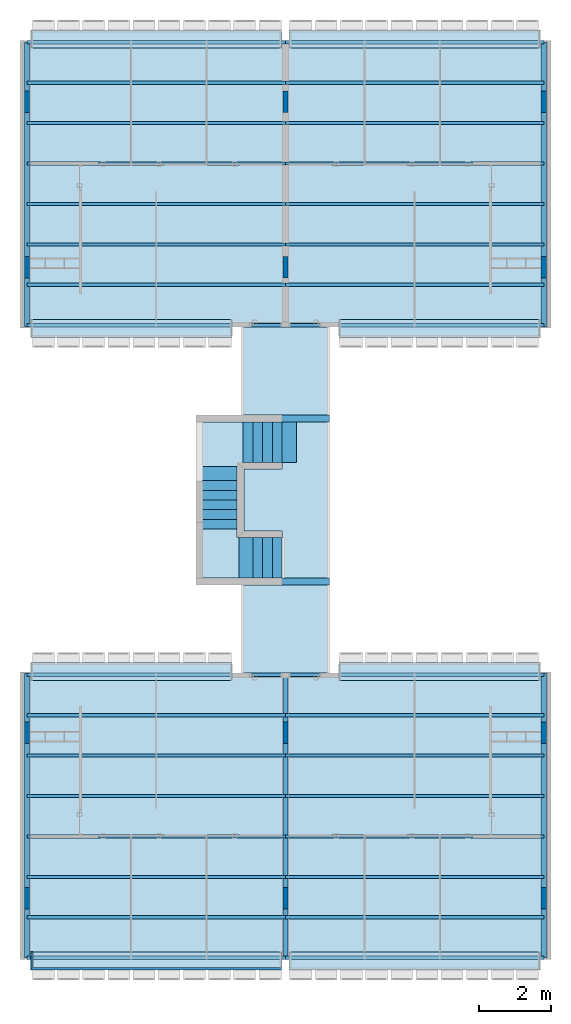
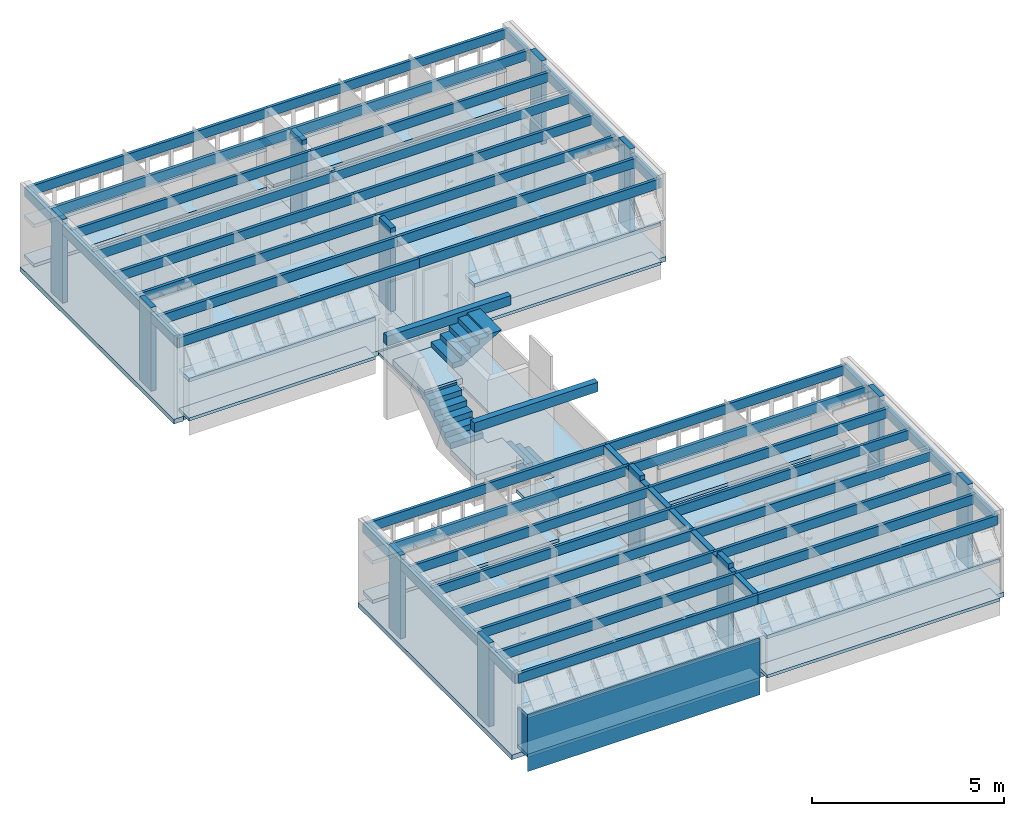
# One storey, part 1 of 22: 39 beams, 23 slabs, 12 columns, 3 members, 2 walls, 3 elements without a shape of their own.
"""IFC2X3 building model written with IfcOpenShell, lengths in millimetres."""

from ifc_helpers import new_model, si_unit, direction, frame, frame_2d, origin_with_axes, origin_2d_with_axis, place, context, subcontext, project, spatial, polyline, rectangle, outline, extrude, boolean, material, layer, layer_set, layer_usage, type_object, element, aggregate, save


model = new_model("IFC2X3")

# Units and contexts
model_context = context("Model", 3, precision=1e-05, world=origin_with_axes(), true_north=direction((0.0, 1.0)))
body_context = subcontext(model_context, "Body", "Model", "MODEL_VIEW")
ifc_project = project(units=[si_unit("LENGTHUNIT", "METRE", prefix="MILLI"), si_unit("AREAUNIT", "SQUARE_METRE"), si_unit("VOLUMEUNIT", "CUBIC_METRE"), si_unit("PLANEANGLEUNIT", "RADIAN"), si_unit("TIMEUNIT", "SECOND"), si_unit("MASSUNIT", "GRAM")], contexts=[model_context])

# Site, building, storey
site_placement = place(None, origin_with_axes())
site = spatial("IfcSite", under=ifc_project, at=site_placement, Name="Site", CompositionType="ELEMENT")
building_placement = place(site_placement, origin_with_axes())
building = spatial("IfcBuilding", under=site, at=building_placement, Name="Construção", CompositionType="COMPLEX")
storey_placement = place(building_placement, frame((0.0, 0.0, 2650.0), z_axis=(0.0, 0.0, 1.0), x_axis=(1.0, 0.0, 0.0)))
storey = spatial("IfcBuildingStorey", under=building, at=storey_placement, Name="Segundo Pavimento", CompositionType="COMPLEX", Elevation=2650.0)

# Columns
ifc_material_1 = material(Name="Concreto Armado Moldado in Loco - Estrutural")
for number, where, z_axis, x_axis, name in (
    (1, (7385.0, 19560.0, 2650.0), (0.0, 0.0, -1.0), (0.0, 1.0, 0.0), "CIRC2-PILAR-004"),
    (2, (195.0, 2000.0, 2650.0), (0.0, 0.0, -1.0), (0.0, -1.0, 0.0), "APTO5-PILAR-000"),
    (3, (195.0, 6600.0, 2650.0), (0.0, 0.0, -1.0), (0.0, -1.0, 0.0), "APTO5-PILAR-001"),
    (4, (7385.0, 6600.0, 2650.0), (0.0, 0.0, -1.0), (0.0, -1.0, 0.0), "CIRC2-PILAR-003"),
    (5, (7385.0, 24160.0, 2650.0), (0.0, 0.0, -1.0), (0.0, 1.0, 0.0), "CIRC2-PILAR-005"),
    (6, (14575.0, 2000.0, 2650.0), (0.0, 0.0, -1.0), (0.0, -1.0, 0.0), "APTO6-PILAR-000"),
    (7, (14575.0, 6600.0, 2650.0), (0.0, 0.0, -1.0), (0.0, -1.0, 0.0), "APTO6-PILAR-001"),
    (8, (195.0, 24160.0, 2650.0), (0.0, 0.0, -1.0), (0.0, 1.0, 0.0), "APTO7-PILAR-000"),
    (9, (195.0, 19560.0, 2650.0), (0.0, 0.0, -1.0), (0.0, 1.0, 0.0), "APTO7-PILAR-001"),
    (10, (14575.0, 24160.0, 2650.0), (0.0, 0.0, -1.0), (0.0, 1.0, 0.0), "APTO8-PILAR-000"),
    (11, (14575.0, 19560.0, 2650.0), (0.0, 0.0, -1.0), (0.0, 1.0, 0.0), "APTO8-PILAR-001"),
    (12, (7385.0, 2000.0, 2650.0), (0.0, 0.0, -1.0), (0.0, -1.0, 0.0), "CIRC2-PILAR-002"),
):
    element("IfcColumn", number, at=place(storey_placement, frame(where, z_axis=z_axis, x_axis=x_axis)), inside=storey, material=ifc_material_1, Name=name, ObjectType="Concreto Armado Moldado in Loco - Estrutural 600 x 150", context=body_context, shape_type="SweptSolid", body=[
        extrude(rectangle(XDim=600.0, YDim=150.0, at=origin_2d_with_axis()), origin_with_axes(), (0.0, 0.0, 1.0), 2650.0),
    ])

# Beams
beam_type_1 = type_object("IfcBeamType", Name="Concreto Armado Moldado in Loco - Estrutural 90 x 300", PredefinedType="NOTDEFINED")
for number, where, z_axis, x_axis, name in (
    (13, (7385.0, 285.0, 2005.0), (-1.0, 0.0, 0.0), (0.0, 0.0, 1.0), "APTO5-VIGA-001"),
    (14, (7385.0, 1410.0, 2005.0), (-1.0, 0.0, 0.0), (0.0, 0.0, 1.0), "APTO5-VIGA-002"),
    (15, (7385.0, 2535.0, 2005.0), (-1.0, 0.0, 0.0), (0.0, 0.0, 1.0), "APTO5-VIGA-003"),
    (16, (7385.0, 3660.2195667, 2005.0), (-1.0, 0.0, 0.0), (0.0, 0.0, 1.0), "APTO5-VIGA-004"),
    (17, (7385.0, 4785.0, 2005.0), (-1.0, 0.0, 0.0), (0.0, 0.0, 1.0), "APTO5-VIGA-005"),
    (18, (7385.0, 8160.0, 2005.0), (-1.0, 0.0, 0.0), (0.0, 0.0, 1.0), "APTO5-VIGA-008"),
    (19, (7385.0, 5910.0, 2005.0), (-1.0, 0.0, 0.0), (0.0, 0.0, 1.0), "APTO5-VIGA-006"),
    (20, (7385.0, 7035.0, 2005.0), (-1.0, 0.0, 0.0), (0.0, 0.0, 1.0), "APTO5-VIGA-007"),
    (21, (7385.0, 405.0, 2005.0), (1.0, 0.0, 0.0), (0.0, 0.0, 1.0), "APTO6-VIGA-001"),
    (22, (7385.0, 1530.0, 2005.0), (1.0, 0.0, 0.0), (0.0, 0.0, 1.0), "APTO6-VIGA-002"),
    (23, (7385.0, 2655.0, 2005.0), (1.0, 0.0, 0.0), (0.0, 0.0, 1.0), "APTO6-VIGA-003"),
    (24, (7385.0, 3780.2195667, 2005.0), (1.0, 0.0, 0.0), (0.0, 0.0, 1.0), "APTO6-VIGA-004"),
    (25, (7385.0, 4905.0, 2005.0), (1.0, 0.0, 0.0), (0.0, 0.0, 1.0), "APTO6-VIGA-005"),
    (26, (7385.0, 8280.0, 2005.0), (1.0, 0.0, 0.0), (0.0, 0.0, 1.0), "APTO6-VIGA-008"),
    (27, (7385.0, 6030.0, 2005.0), (1.0, 0.0, 0.0), (0.0, 0.0, 1.0), "APTO6-VIGA-006"),
    (28, (7385.0, 7155.0, 2005.0), (1.0, 0.0, 0.0), (0.0, 0.0, 1.0), "APTO6-VIGA-007"),
    (29, (7385.0, 25755.0, 2005.0), (-1.0, 0.0, 0.0), (0.0, 0.0, 1.0), "APTO7-VIGA-001"),
    (30, (7385.0, 24630.0, 2005.0), (-1.0, 0.0, 0.0), (0.0, 0.0, 1.0), "APTO7-VIGA-002"),
    (31, (7385.0, 23505.0, 2005.0), (-1.0, 0.0, 0.0), (0.0, 0.0, 1.0), "APTO7-VIGA-003"),
    (32, (7385.0, 22379.7804333, 2005.0), (-1.0, 0.0, 0.0), (0.0, 0.0, 1.0), "APTO7-VIGA-004"),
    (33, (7385.0, 21255.0, 2005.0), (-1.0, 0.0, 0.0), (0.0, 0.0, 1.0), "APTO7-VIGA-005"),
    (34, (7385.0, 17880.0, 2005.0), (-1.0, 0.0, 0.0), (0.0, 0.0, 1.0), "APTO7-VIGA-008"),
    (35, (7385.0, 20130.0, 2005.0), (-1.0, 0.0, 0.0), (0.0, 0.0, 1.0), "APTO7-VIGA-006"),
    (36, (7385.0, 19005.0, 2005.0), (-1.0, 0.0, 0.0), (0.0, 0.0, 1.0), "APTO7-VIGA-007"),
    (37, (7385.0, 25875.0, 2005.0), (1.0, 0.0, 0.0), (0.0, 0.0, 1.0), "APTO8-VIGA-001"),
    (38, (7385.0, 24750.0, 2005.0), (1.0, 0.0, 0.0), (0.0, 0.0, 1.0), "APTO8-VIGA-002"),
    (39, (7385.0, 23625.0, 2005.0), (1.0, 0.0, 0.0), (0.0, 0.0, 1.0), "APTO8-VIGA-003"),
    (40, (7385.0, 22499.7804333, 2005.0), (1.0, 0.0, 0.0), (0.0, 0.0, 1.0), "APTO8-VIGA-004"),
    (41, (7385.0, 21375.0, 2005.0), (1.0, 0.0, 0.0), (0.0, 0.0, 1.0), "APTO8-VIGA-005"),
    (42, (7385.0, 18000.0, 2005.0), (1.0, 0.0, 0.0), (0.0, 0.0, 1.0), "APTO8-VIGA-008"),
    (43, (7385.0, 20250.0, 2005.0), (1.0, 0.0, 0.0), (0.0, 0.0, 1.0), "APTO8-VIGA-006"),
    (44, (7385.0, 19125.0, 2005.0), (1.0, 0.0, 0.0), (0.0, 0.0, 1.0), "APTO8-VIGA-007"),
):
    element("IfcBeam", number, at=place(storey_placement, frame(where, z_axis=z_axis, x_axis=x_axis)), inside=storey, type_object=beam_type_1, material=ifc_material_1, Name=name, ObjectType="Concreto Armado Moldado in Loco - Estrutural 90 x 300", context=body_context, shape_type="CSG", body=[
        boolean("UNION", boolean("DIFFERENCE", extrude(rectangle(XDim=300.0, YDim=90.0, at=frame_2d((-150.0, 45.0), x_axis=(1.0, 0.0))), frame((300.0, -90.0, 0.0), z_axis=(0.0, 0.0, 1.0), x_axis=(1.0, 0.0, 0.0)), (0.0, 0.0, 1.0), 7190.0), extrude(outline(polyline([(-150.0, 45.0), (150.0, 45.0), (150.0, -44.99999999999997), (-150.0, -45.0), (-150.0, 45.0)])), frame((150.0, -45.0, 0.0), z_axis=(0.0, 0.0, 1.0), x_axis=(1.0, 0.0, 0.0)), (0.0, 0.0, 1.0), 7190.0)), extrude(outline(polyline([(-150.0, 45.0), (150.0, 45.0), (150.0, -44.99999999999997), (-150.0, -45.0), (-150.0, 45.0)])), frame((345.0, 60.0, 0.0), z_axis=(0.0, 0.0, 1.0), x_axis=(1.0, 0.0, 0.0)), (0.0, 0.0, 1.0), 7190.0)),
    ])
beam_type_2 = type_object("IfcBeamType", Name="Concreto Armado Moldado in Loco - Estrutural 150 x 300", PredefinedType="NOTDEFINED")
for number, where, z_axis, x_axis, name in (
    (45, (195.0, 335.02097873, 1975.0), (0.0, 1.0, 0.0), (0.0, 0.0, 1.0), "APTO5-VIGA-009"),
    (46, (14575.0, 335.02097873, 1975.0), (0.0, 1.0, 0.0), (0.0, 0.0, 1.0), "APTO6-VIGA-009"),
):
    element("IfcBeam", number, at=place(storey_placement, frame(where, z_axis=z_axis, x_axis=x_axis)), inside=storey, type_object=beam_type_2, material=ifc_material_1, Name=name, ObjectType="Concreto Armado Moldado in Loco - Estrutural 150 x 300", context=body_context, shape_type="CSG", body=[
        boolean("UNION", boolean("DIFFERENCE", extrude(rectangle(XDim=300.0, YDim=150.0, at=frame_2d((-150.0, 75.0), x_axis=(1.0, 0.0))), frame((300.0, -150.0, 0.0), z_axis=(0.0, 0.0, 1.0), x_axis=(1.0, 0.0, 0.0)), (0.0, 0.0, 1.0), 7929.97902127), extrude(outline(polyline([(50.0, 74.99999999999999), (50.0, 0.0), (125.0, 0.0), (125.0, -75.0), (-175.0, -74.99999999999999), (-175.0, 75.0), (50.0, 74.99999999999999)])), frame((175.0, -75.0, 0.0), z_axis=(0.0, 0.0, 1.0), x_axis=(1.0, 0.0, 0.0)), (0.0, 0.0, 1.0), 7929.97902127)), extrude(outline(polyline([(-50.0, -75.0), (-50.0, 0.0), (-125.0, 0.0), (-125.0, 74.99999999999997), (175.0, 75.0), (175.0, -75.0), (-50.0, -75.0)])), frame((350.0, 0.0, 0.0), z_axis=(0.0, 0.0, 1.0), x_axis=(1.0, 0.0, 0.0)), (0.0, 0.0, 1.0), 7929.97902127)),
    ])
for number, where, z_axis, x_axis, name in (
    (47, (195.0, 25824.97902127, 1975.0), (0.0, -1.0, 0.0), (0.0, 0.0, 1.0), "APTO7-VIGA-009"),
    (48, (14575.0, 25824.97902127, 1975.0), (0.0, -1.0, 0.0), (0.0, 0.0, 1.0), "APTO8-VIGA-009"),
):
    element("IfcBeam", number, at=place(storey_placement, frame(where, z_axis=z_axis, x_axis=x_axis)), inside=storey, type_object=beam_type_2, material=ifc_material_1, Name=name, ObjectType="Concreto Armado Moldado in Loco - Estrutural 150 x 300", context=body_context, shape_type="CSG", body=[
        boolean("UNION", boolean("DIFFERENCE", extrude(rectangle(XDim=300.0, YDim=150.0, at=frame_2d((-150.0, 75.0), x_axis=(1.0, 0.0))), frame((300.0, -150.0, 0.0), z_axis=(0.0, 0.0, 1.0), x_axis=(1.0, 0.0, 0.0)), (0.0, 0.0, 1.0), 7929.979021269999), extrude(outline(polyline([(50.0, 74.99999999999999), (50.0, 0.0), (125.0, 0.0), (125.0, -75.0), (-175.0, -74.99999999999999), (-175.0, 75.0), (50.0, 74.99999999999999)])), frame((175.0, -75.0, 0.0), z_axis=(0.0, 0.0, 1.0), x_axis=(1.0, 0.0, 0.0)), (0.0, 0.0, 1.0), 7929.979021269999)), extrude(outline(polyline([(-50.0, -75.0), (-50.0, 0.0), (-125.0, 0.0), (-125.0, 74.99999999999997), (175.0, 75.0), (175.0, -75.0), (-50.0, -75.0)])), frame((350.0, 0.0, 0.0), z_axis=(0.0, 0.0, 1.0), x_axis=(1.0, 0.0, 0.0)), (0.0, 0.0, 1.0), 7929.979021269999)),
    ])
beam_placement = place(storey_placement, frame((7385.0, 335.02097873, 1975.0), z_axis=(0.0, 1.0, 0.0), x_axis=(0.0, 0.0, 1.0)))
element("IfcBeam", 49, at=beam_placement, inside=storey, type_object=beam_type_2, material=ifc_material_1, Name="CIRC2-VIGA-012", ObjectType="Concreto Armado Moldado in Loco - Estrutural 150 x 300", context=body_context, shape_type="CSG", body=[
    boolean("UNION", boolean("DIFFERENCE", extrude(rectangle(XDim=300.0, YDim=150.0, at=frame_2d((-150.0, 75.0), x_axis=(1.0, 0.0))), frame((300.0, -150.0, 0.0), z_axis=(0.0, 0.0, 1.0), x_axis=(1.0, 0.0, 0.0)), (0.0, 0.0, 1.0), 7929.97902127), extrude(outline(polyline([(50.0, 74.99999999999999), (50.0, 0.0), (125.0, 0.0), (125.0, -75.0), (-175.0, -74.99999999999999), (-175.0, 75.0), (50.0, 74.99999999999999)])), frame((175.0, -75.0, 0.0), z_axis=(0.0, 0.0, 1.0), x_axis=(1.0, 0.0, 0.0)), (0.0, 0.0, 1.0), 7929.97902127)), extrude(outline(polyline([(-50.0, -75.0), (-50.0, 0.0), (-125.0, 0.0), (-125.0, 74.99999999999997), (175.0, 75.0), (175.0, -75.0), (-50.0, -75.0)])), frame((350.0, 0.0, 0.0), z_axis=(0.0, 0.0, 1.0), x_axis=(1.0, 0.0, 0.0)), (0.0, 0.0, 1.0), 7929.97902127)),
])
for number, where, z_axis, x_axis, name in (
    (50, (8610.0, 10815.0, 2350.0), (-1.0, 0.0, 0.0), (0.0, 0.0, 1.0), "CIRC2-VIGA-010"),
    (51, (8610.0, 15345.0, 2350.0), (-1.0, 0.0, 0.0), (0.0, 0.0, 1.0), "CIRC2-VIGA-011"),
):
    element("IfcBeam", number, at=place(storey_placement, frame(where, z_axis=z_axis, x_axis=x_axis)), inside=storey, material=ifc_material_1, Name=name, ObjectType="Concreto Armado Moldado in Loco - Estrutural 190 x 300", context=body_context, shape_type="SweptSolid", body=[
        extrude(rectangle(XDim=300.0, YDim=190.0, at=origin_2d_with_axis()), origin_with_axes(), (0.0, 0.0, 1.0), 3720.0),
    ])

# Stair, member
stair_1_placement = place(storey_placement, frame((0.0, 0.0, -2650.0), z_axis=(0.0, 0.0, 1.0), x_axis=(1.0, 0.0, 0.0)))
stair_1 = element("IfcStair", 52, at=stair_1_placement, inside=storey, Name="CIRC2-ESCADA-002", ShapeType="NOTDEFINED")
ifc_material_2 = material(Name="Concreto - Estrutural")
member_1_placement = place(stair_1_placement, frame((6210.0, 14130.0, 4360.570758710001), z_axis=(0.8603581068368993, 0.0, 0.5096900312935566), x_axis=(0.5096900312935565, 0.0, -0.8603581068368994)))
member_1 = element("IfcMember", 53, at=member_1_placement, material=ifc_material_2, Name="CIRC2-Lance - 005", context=body_context, shape_type="SweptSolid", body=[
    extrude(outline(polyline([(175.170477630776, -916.7471895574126), (-26.4100201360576, -576.4787817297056), (25.1704776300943, -545.9216621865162), (-112.4458308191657, -313.624973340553), (25.17047762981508, -232.0988506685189), (-112.445830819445, 0.1978381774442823), (25.1704776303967, 81.72396084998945), (-112.4458308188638, 314.0206496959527), (25.17047763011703, 395.5467723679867), (-112.445830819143, 627.8434612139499), (25.17047763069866, 709.3695838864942), (175.1704776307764, 456.1691912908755), (175.170477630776, -916.7471895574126)])), frame((-25.17047763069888, -1.818989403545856e-12, 709.369583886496), z_axis=(0.0, 1.0, 0.0), x_axis=(1.0, 0.0, 0.0)), (0.0, 0.0, 1.0), 1120.0),
])
aggregate(stair_1, [member_1])

stair_2_placement = place(storey_placement, frame((0.0, 0.0, -2650.0), z_axis=(0.0, 0.0, 1.0), x_axis=(1.0, 0.0, 0.0)))
stair_2 = element("IfcStair", 54, at=stair_2_placement, inside=storey, Name="CIRC2-ESCADA-000", ShapeType="NOTDEFINED")
member_2_placement = place(stair_2_placement, frame((5065.0, 14011.10758728, 3330.0), z_axis=(0.0, 0.8366524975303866, 0.5477340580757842), x_axis=(0.0, -0.5477340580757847, 0.8366524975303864)))
member_2 = element("IfcMember", 55, at=member_2_placement, material=ifc_material_2, Name="CIRC2-Lance - 007", context=body_context, shape_type="SweptSolid", body=[
    extrude(outline(polyline([(-35.97599459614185, -726.4633272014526), (28.24695133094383, -768.5083756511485), (-185.9759945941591, -1095.729515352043), (-185.9759945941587, 657.9879037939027), (-35.97599459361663, 887.109815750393), (111.9122010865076, 790.2913614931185), (-35.97599459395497, 564.3951871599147), (111.9122010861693, 467.5767329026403), (-35.97599459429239, 241.6805585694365), (111.9122010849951, 144.8621043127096), (-35.97599459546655, -81.03407002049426), (111.9122010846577, -177.8525242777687), (-35.97599459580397, -403.7486986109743), (111.9122010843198, -500.5671528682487), (-35.97599459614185, -726.4633272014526)])), frame((989.6399189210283, 0.0, -569.5921956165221), z_axis=(0.0, 1.0, 0.0), x_axis=(1.0, 0.0, 0.0)), (0.0, 0.0, 1.0), 975.0),
])
aggregate(stair_2, [member_2])

stair_3_placement = place(storey_placement, frame((0.0, 0.0, -2650.0), z_axis=(0.0, 0.0, 1.0), x_axis=(1.0, 0.0, 0.0)))
stair_3 = element("IfcStair", 56, at=stair_3_placement, inside=storey, Name="CIRC2-ESCADA-001", ShapeType="NOTDEFINED")
member_3_placement = place(stair_3_placement, frame((6090.08794199, 10910.0, 2600.0), z_axis=(-0.8284927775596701, 0.0, 0.5599997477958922), x_axis=(0.5599997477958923, 0.0, 0.8284927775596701)))
member_3 = element("IfcMember", 57, at=member_3_placement, material=ifc_material_2, Name="CIRC2-Lance - 005", context=body_context, shape_type="SweptSolid", body=[
    extrude(outline(polyline([(-172.1950449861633, -763.6831137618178), (-172.1950449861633, 361.3173928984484), (-22.19504498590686, 583.2352011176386), (129.004886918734, 481.0352471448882), (-22.19504498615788, 257.3421972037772), (129.004886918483, 155.1422432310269), (-22.1950449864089, -68.55080671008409), (129.004886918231, -170.7507606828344), (-22.19504498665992, -394.4438106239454), (46.15560916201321, -440.6437898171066), (-172.1950449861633, -763.6831137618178)])), frame((694.1454948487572, 0.0, -410.8832726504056), z_axis=(0.0, 1.0, 0.0), x_axis=(1.0, 0.0, 0.0)), (0.0, 0.0, 1.0), 1120.0),
])
aggregate(stair_3, [member_3])

# Slabs
ifc_layer_1 = layer(ifc_material_1, 180.0)
ifc_layer_set_1 = layer_set([ifc_layer_1], Name="Concreto Armado Moldado in Loco - Estrutural 180")
ifc_layer_usage_1 = layer_usage(ifc_layer_set_1, "AXIS3", "POSITIVE", 0.0)
slab_type_1 = type_object("IfcSlabType", Name="Concreto Armado Moldado in Loco - Estrutural 180", PredefinedType="FLOOR", material=ifc_layer_set_1)
slab_1_placement = place(storey_placement, frame((5065.0, 15250.0, 1530.570758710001), z_axis=(0.0, 0.0, 1.0), x_axis=(0.0, -1.0, 0.0)))
element("IfcSlab", 58, at=slab_1_placement, inside=storey, type_object=slab_type_1, material=ifc_layer_usage_1, Name="CIRC2-LAJE-005", PredefinedType="FLOOR", context=body_context, shape_type="SweptSolid", body=[
    extrude(rectangle(XDim=1630.0, YDim=1145.0, at=frame_2d((0.0, 0.0), x_axis=(-1.0, 0.0))), frame((815.0, 572.5, 0.0), z_axis=(0.0, 0.0, 1.0), x_axis=(1.0, 0.0, 0.0)), (0.0, 0.0, 1.0), 180.0),
])
ifc_layer_usage_2 = layer_usage(ifc_layer_set_1, "AXIS3", "POSITIVE", 0.0)
slab_2_placement = place(storey_placement, frame((5065.0, 10910.0, 500.0), z_axis=(0.0, 0.0, 1.0), x_axis=(1.0, 0.0, 0.0)))
element("IfcSlab", 59, at=slab_2_placement, inside=storey, type_object=slab_type_1, material=ifc_layer_usage_2, Name="CIRC2-LAJE-006", PredefinedType="FLOOR", context=body_context, shape_type="SweptSolid", body=[
    extrude(outline(polyline([(-796.666666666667, -826.6666666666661), (-796.666666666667, 533.3333333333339), (178.333333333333, 533.3333333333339), (178.333333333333, 293.3333333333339), (618.333333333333, 293.3333333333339), (618.333333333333, -826.6666666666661), (-796.666666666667, -826.6666666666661)])), frame((796.666666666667, 826.6666666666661, 0.0), z_axis=(0.0, 0.0, 1.0), x_axis=(1.0, 0.0, 0.0)), (0.0, 0.0, 1.0), 180.0),
])
ifc_layer_2 = layer(ifc_material_1, 100.0)
ifc_layer_set_2 = layer_set([ifc_layer_2], Name="Concreto Armado Moldado in Loco - Estrutural 100")
ifc_layer_usage_3 = layer_usage(ifc_layer_set_2, "AXIS3", "POSITIVE", 0.0)
slab_type_2 = type_object("IfcSlabType", Name="Concreto Armado Moldado in Loco - Estrutural 100", PredefinedType="FLOOR", material=ifc_layer_set_2)
slab_3_placement = place(storey_placement, frame((300.0, 0.0, 0.0), z_axis=(0.0, 0.0, 1.0), x_axis=(1.0, 0.0, 0.0)))
element("IfcSlab", 60, at=slab_3_placement, inside=storey, type_object=slab_type_2, material=ifc_layer_usage_3, Name="APTO5-LAJE-001", PredefinedType="FLOOR", context=body_context, shape_type="SweptSolid", body=[
    extrude(rectangle(XDim=6980.0, YDim=510.0, at=origin_2d_with_axis()), frame((3490.0, 255.0, 0.0), z_axis=(0.0, 0.0, 1.0), x_axis=(1.0, 0.0, 0.0)), (0.0, 0.0, 1.0), 100.0),
])
ifc_layer_usage_4 = layer_usage(ifc_layer_set_2, "AXIS3", "POSITIVE", 0.0)
slab_4_placement = place(storey_placement, frame((300.0, 8054.99999866, 0.0), z_axis=(0.0, 0.0, 1.0), x_axis=(1.0, 0.0, 0.0)))
element("IfcSlab", 61, at=slab_4_placement, inside=storey, type_object=slab_type_2, material=ifc_layer_usage_4, Name="APTO5-LAJE-004", PredefinedType="FLOOR", context=body_context, shape_type="SweptSolid", body=[
    extrude(rectangle(XDim=5600.0, YDim=510.0, at=origin_2d_with_axis()), frame((2800.0, 255.0, 0.0), z_axis=(0.0, 0.0, 1.0), x_axis=(1.0, 0.0, 0.0)), (0.0, 0.0, 1.0), 100.0),
])
ifc_layer_usage_5 = layer_usage(ifc_layer_set_2, "AXIS3", "POSITIVE", 0.0)
slab_5_placement = place(storey_placement, frame((7490.0, 0.0, 0.0), z_axis=(0.0, 0.0, 1.0), x_axis=(1.0, 0.0, 0.0)))
element("IfcSlab", 62, at=slab_5_placement, inside=storey, type_object=slab_type_2, material=ifc_layer_usage_5, Name="APTO6-LAJE-001", PredefinedType="FLOOR", context=body_context, shape_type="SweptSolid", body=[
    extrude(rectangle(XDim=6980.0, YDim=510.0, at=origin_2d_with_axis()), frame((3490.0, 255.0, 0.0), z_axis=(0.0, 0.0, 1.0), x_axis=(1.0, 0.0, 0.0)), (0.0, 0.0, 1.0), 100.0),
])
ifc_layer_usage_6 = layer_usage(ifc_layer_set_2, "AXIS3", "POSITIVE", 0.0)
slab_6_placement = place(storey_placement, frame((8870.0, 8054.99999866, 0.0), z_axis=(0.0, 0.0, 1.0), x_axis=(1.0, 0.0, 0.0)))
element("IfcSlab", 63, at=slab_6_placement, inside=storey, type_object=slab_type_2, material=ifc_layer_usage_6, Name="APTO6-LAJE-004", PredefinedType="FLOOR", context=body_context, shape_type="SweptSolid", body=[
    extrude(rectangle(XDim=5600.0, YDim=510.0, at=origin_2d_with_axis()), frame((2800.0, 255.0, 0.0), z_axis=(0.0, 0.0, 1.0), x_axis=(1.0, 0.0, 0.0)), (0.0, 0.0, 1.0), 100.0),
])
ifc_layer_usage_7 = layer_usage(ifc_layer_set_2, "AXIS3", "POSITIVE", 0.0)
slab_7_placement = place(storey_placement, frame((300.0, 25650.0, 0.0), z_axis=(0.0, 0.0, 1.0), x_axis=(1.0, 0.0, 0.0)))
element("IfcSlab", 64, at=slab_7_placement, inside=storey, type_object=slab_type_2, material=ifc_layer_usage_7, Name="APTO7-LAJE-001", PredefinedType="FLOOR", context=body_context, shape_type="SweptSolid", body=[
    extrude(rectangle(XDim=6980.0, YDim=510.0, at=origin_2d_with_axis()), frame((3490.0, 255.0, 0.0), z_axis=(0.0, 0.0, 1.0), x_axis=(1.0, 0.0, 0.0)), (0.0, 0.0, 1.0), 100.0),
])
ifc_layer_usage_8 = layer_usage(ifc_layer_set_2, "AXIS3", "POSITIVE", 0.0)
slab_8_placement = place(storey_placement, frame((300.0, 17595.0000013, 0.0), z_axis=(0.0, 0.0, 1.0), x_axis=(1.0, 0.0, 0.0)))
element("IfcSlab", 65, at=slab_8_placement, inside=storey, type_object=slab_type_2, material=ifc_layer_usage_8, Name="APTO7-LAJE-004", PredefinedType="FLOOR", context=body_context, shape_type="SweptSolid", body=[
    extrude(rectangle(XDim=5600.0, YDim=510.0, at=origin_2d_with_axis()), frame((2800.0, 255.0, 0.0), z_axis=(0.0, 0.0, 1.0), x_axis=(1.0, 0.0, 0.0)), (0.0, 0.0, 1.0), 100.0),
])
ifc_layer_usage_9 = layer_usage(ifc_layer_set_2, "AXIS3", "POSITIVE", 0.0)
slab_9_placement = place(storey_placement, frame((7490.0, 25650.0, 0.0), z_axis=(0.0, 0.0, 1.0), x_axis=(1.0, 0.0, 0.0)))
element("IfcSlab", 66, at=slab_9_placement, inside=storey, type_object=slab_type_2, material=ifc_layer_usage_9, Name="APTO8-LAJE-001", PredefinedType="FLOOR", context=body_context, shape_type="SweptSolid", body=[
    extrude(rectangle(XDim=6980.0, YDim=510.0, at=origin_2d_with_axis()), frame((3490.0, 255.0, 0.0), z_axis=(0.0, 0.0, 1.0), x_axis=(1.0, 0.0, 0.0)), (0.0, 0.0, 1.0), 100.0),
])
ifc_layer_usage_10 = layer_usage(ifc_layer_set_2, "AXIS3", "POSITIVE", 0.0)
slab_10_placement = place(storey_placement, frame((8870.0, 17595.0000013, 0.0), z_axis=(0.0, 0.0, 1.0), x_axis=(1.0, 0.0, 0.0)))
element("IfcSlab", 67, at=slab_10_placement, inside=storey, type_object=slab_type_2, material=ifc_layer_usage_10, Name="APTO8-LAJE-004", PredefinedType="FLOOR", context=body_context, shape_type="SweptSolid", body=[
    extrude(rectangle(XDim=5600.0, YDim=510.0, at=origin_2d_with_axis()), frame((2800.0, 255.0, 0.0), z_axis=(0.0, 0.0, 1.0), x_axis=(1.0, 0.0, 0.0)), (0.0, 0.0, 1.0), 100.0),
])
ifc_layer_usage_11 = layer_usage(ifc_layer_set_2, "AXIS3", "POSITIVE", 0.0)
slab_11_placement = place(storey_placement, frame((6159.9999999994, 17895.00000002, -150.0), z_axis=(0.0, 0.0, 1.0), x_axis=(0.0, -1.0, 0.0)))
element("IfcSlab", 68, at=slab_11_placement, inside=storey, type_object=slab_type_2, material=ifc_layer_usage_11, Name="CIRC2-LAJE-007", PredefinedType="FLOOR", context=body_context, shape_type="SweptSolid", body=[
    extrude(outline(polyline([(-860.0000634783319, -726.6667434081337), (-860.0000634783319, 333.3333848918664), (-2360.000047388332, 333.3333848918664), (-2360.000047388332, -796.6666754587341), (-4814.999999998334, -796.6666754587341), (-4814.999999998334, 1653.333324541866), (4815.000000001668, 1653.333324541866), (4815.000000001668, -796.6666754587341), (2360.000047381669, -796.6666754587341), (2360.000047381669, 333.3333848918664), (860.0000634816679, 333.3333848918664), (860.0000634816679, -726.6667434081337), (-860.0000634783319, -726.6667434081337)])), frame((4814.999999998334, 796.6666754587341, 0.0), z_axis=(0.0, 0.0, 1.0), x_axis=(1.0, 0.0, 0.0)), (0.0, 0.0, 1.0), 100.0),
])
ifc_layer_3 = layer(ifc_material_1, 120.0)
ifc_layer_set_3 = layer_set([ifc_layer_3], Name="Concreto Armado Moldado in Loco - Estrutural 120")
ifc_layer_usage_12 = layer_usage(ifc_layer_set_3, "AXIS3", "POSITIVE", 0.0)
slab_type_3 = type_object("IfcSlabType", Name="Concreto Armado Moldado in Loco - Estrutural 120", PredefinedType="FLOOR", material=ifc_layer_set_3)
slab_12_placement = place(storey_placement, frame((300.0, 8054.99999866, 1235.0), z_axis=(0.0, 0.0, 1.0), x_axis=(1.0, 0.0, 0.0)))
element("IfcSlab", 69, at=slab_12_placement, inside=storey, type_object=slab_type_3, material=ifc_layer_usage_12, Name="APTO5-LAJE-003", PredefinedType="FLOOR", context=body_context, shape_type="SweptSolid", body=[
    extrude(rectangle(XDim=5600.0, YDim=510.0, at=origin_2d_with_axis()), frame((2800.0, 255.0, 0.0), z_axis=(0.0, 0.0, 1.0), x_axis=(1.0, 0.0, 0.0)), (0.0, 0.0, 1.0), 120.0),
])
ifc_layer_usage_13 = layer_usage(ifc_layer_set_3, "AXIS3", "POSITIVE", 0.0)
slab_13_placement = place(storey_placement, frame((300.0, 0.0, 1235.0), z_axis=(0.0, 0.0, 1.0), x_axis=(1.0, 0.0, 0.0)))
element("IfcSlab", 70, at=slab_13_placement, inside=storey, type_object=slab_type_3, material=ifc_layer_usage_13, Name="APTO5-LAJE-002", PredefinedType="FLOOR", context=body_context, shape_type="SweptSolid", body=[
    extrude(rectangle(XDim=6980.0, YDim=510.0, at=origin_2d_with_axis()), frame((3490.0, 255.0, 0.0), z_axis=(0.0, 0.0, 1.0), x_axis=(1.0, 0.0, 0.0)), (0.0, 0.0, 1.0), 120.0),
])
ifc_layer_usage_14 = layer_usage(ifc_layer_set_3, "AXIS3", "POSITIVE", 0.0)
slab_14_placement = place(storey_placement, frame((8870.0, 8054.99999866, 1235.0), z_axis=(0.0, 0.0, 1.0), x_axis=(1.0, 0.0, 0.0)))
element("IfcSlab", 71, at=slab_14_placement, inside=storey, type_object=slab_type_3, material=ifc_layer_usage_14, Name="APTO6-LAJE-003", PredefinedType="FLOOR", context=body_context, shape_type="SweptSolid", body=[
    extrude(rectangle(XDim=5600.0, YDim=510.0, at=origin_2d_with_axis()), frame((2800.0, 255.0, 0.0), z_axis=(0.0, 0.0, 1.0), x_axis=(1.0, 0.0, 0.0)), (0.0, 0.0, 1.0), 120.0),
])
ifc_layer_usage_15 = layer_usage(ifc_layer_set_3, "AXIS3", "POSITIVE", 0.0)
slab_15_placement = place(storey_placement, frame((7490.0, 0.0, 1235.0), z_axis=(0.0, 0.0, 1.0), x_axis=(1.0, 0.0, 0.0)))
element("IfcSlab", 72, at=slab_15_placement, inside=storey, type_object=slab_type_3, material=ifc_layer_usage_15, Name="APTO6-LAJE-002", PredefinedType="FLOOR", context=body_context, shape_type="SweptSolid", body=[
    extrude(rectangle(XDim=6980.0, YDim=510.0, at=origin_2d_with_axis()), frame((3490.0, 255.0, 0.0), z_axis=(0.0, 0.0, 1.0), x_axis=(1.0, 0.0, 0.0)), (0.0, 0.0, 1.0), 120.0),
])
ifc_layer_usage_16 = layer_usage(ifc_layer_set_3, "AXIS3", "POSITIVE", 0.0)
slab_16_placement = place(storey_placement, frame((300.0, 17595.0000013, 1235.0), z_axis=(0.0, 0.0, 1.0), x_axis=(1.0, 0.0, 0.0)))
element("IfcSlab", 73, at=slab_16_placement, inside=storey, type_object=slab_type_3, material=ifc_layer_usage_16, Name="APTO7-LAJE-003", PredefinedType="FLOOR", context=body_context, shape_type="SweptSolid", body=[
    extrude(rectangle(XDim=5600.0, YDim=510.0, at=origin_2d_with_axis()), frame((2800.0, 255.0, 0.0), z_axis=(0.0, 0.0, 1.0), x_axis=(1.0, 0.0, 0.0)), (0.0, 0.0, 1.0), 120.0),
])
ifc_layer_usage_17 = layer_usage(ifc_layer_set_3, "AXIS3", "POSITIVE", 0.0)
slab_17_placement = place(storey_placement, frame((300.0, 25650.0, 1235.0), z_axis=(0.0, 0.0, 1.0), x_axis=(1.0, 0.0, 0.0)))
element("IfcSlab", 74, at=slab_17_placement, inside=storey, type_object=slab_type_3, material=ifc_layer_usage_17, Name="APTO7-LAJE-002", PredefinedType="FLOOR", context=body_context, shape_type="SweptSolid", body=[
    extrude(rectangle(XDim=6980.0, YDim=510.0, at=origin_2d_with_axis()), frame((3490.0, 255.0, 0.0), z_axis=(0.0, 0.0, 1.0), x_axis=(1.0, 0.0, 0.0)), (0.0, 0.0, 1.0), 120.0),
])
ifc_layer_usage_18 = layer_usage(ifc_layer_set_3, "AXIS3", "POSITIVE", 0.0)
slab_18_placement = place(storey_placement, frame((8870.0, 17595.0000013, 1235.0), z_axis=(0.0, 0.0, 1.0), x_axis=(1.0, 0.0, 0.0)))
element("IfcSlab", 75, at=slab_18_placement, inside=storey, type_object=slab_type_3, material=ifc_layer_usage_18, Name="APTO8-LAJE-003", PredefinedType="FLOOR", context=body_context, shape_type="SweptSolid", body=[
    extrude(rectangle(XDim=5600.0, YDim=510.0, at=origin_2d_with_axis()), frame((2800.0, 255.0, 0.0), z_axis=(0.0, 0.0, 1.0), x_axis=(1.0, 0.0, 0.0)), (0.0, 0.0, 1.0), 120.0),
])
ifc_layer_usage_19 = layer_usage(ifc_layer_set_3, "AXIS3", "POSITIVE", 0.0)
slab_19_placement = place(storey_placement, frame((7490.0, 25650.0, 1235.0), z_axis=(0.0, 0.0, 1.0), x_axis=(1.0, 0.0, 0.0)))
element("IfcSlab", 76, at=slab_19_placement, inside=storey, type_object=slab_type_3, material=ifc_layer_usage_19, Name="APTO8-LAJE-002", PredefinedType="FLOOR", context=body_context, shape_type="SweptSolid", body=[
    extrude(rectangle(XDim=6980.0, YDim=510.0, at=origin_2d_with_axis()), frame((3490.0, 255.0, 0.0), z_axis=(0.0, 0.0, 1.0), x_axis=(1.0, 0.0, 0.0)), (0.0, 0.0, 1.0), 120.0),
])
ifc_layer_4 = layer(ifc_material_1, 150.0)
ifc_layer_set_4 = layer_set([ifc_layer_4], Name="Concreto Armado Moldado in Loco - Estrutural 150")
ifc_layer_usage_20 = layer_usage(ifc_layer_set_4, "AXIS3", "POSITIVE", 0.0)
slab_type_4 = type_object("IfcSlabType", Name="Concreto Armado Moldado in Loco - Estrutural 150", PredefinedType="FLOOR", material=ifc_layer_set_4)
slab_20_placement = place(storey_placement, frame((0.0, 8300.000000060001, -150.0), z_axis=(0.0, 0.0, 1.0), x_axis=(0.0, -1.0, 0.0)))
element("IfcSlab", 77, at=slab_20_placement, inside=storey, type_object=slab_type_4, material=ifc_layer_usage_20, Name="APTO5-LAJE-000", PredefinedType="FLOOR", context=body_context, shape_type="SweptSolid", body=[
    extrude(outline(polyline([(5982.4999995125, -3426.25001048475), (-2017.499999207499, -3426.25001048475), (-2017.500000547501, -3136.25001064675), (-1982.5000004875, -3136.25001048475), (-1982.5000004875, 2473.74998951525), (-1982.499999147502, 2733.750073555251), (-1982.499999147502, 3958.74998951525), (5982.4999995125, 3958.74998951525), (5982.4999995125, -3426.25001048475)])), frame((2017.500000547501, 3426.25001048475, 0.0), z_axis=(0.0, 0.0, 1.0), x_axis=(1.0, 0.0, 0.0)), (0.0, 0.0, 1.0), 150.0),
])
ifc_layer_usage_21 = layer_usage(ifc_layer_set_4, "AXIS3", "POSITIVE", 0.0)
slab_21_placement = place(storey_placement, frame((7385.0, 8300.000000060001, -150.0), z_axis=(0.0, 0.0, 1.0), x_axis=(0.0, -1.0, 0.0)))
element("IfcSlab", 78, at=slab_21_placement, inside=storey, type_object=slab_type_4, material=ifc_layer_usage_21, Name="APTO6-LAJE-000", PredefinedType="FLOOR", context=body_context, shape_type="SweptSolid", body=[
    extrude(outline(polyline([(5982.4999995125, 3426.25001048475), (5982.4999995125, -3958.74998951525), (-1982.499999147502, -3958.74998951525), (-1982.499999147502, -2733.750073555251), (-1982.5000004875, -2473.74998951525), (-1982.5000004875, 3136.25001048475), (-2017.500000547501, 3136.250010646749), (-2017.499999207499, 3426.25001048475), (5982.4999995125, 3426.25001048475)])), frame((2017.500000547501, 3958.74998951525, 0.0), z_axis=(0.0, 0.0, 1.0), x_axis=(1.0, 0.0, 0.0)), (0.0, 0.0, 1.0), 150.0),
])
ifc_layer_usage_22 = layer_usage(ifc_layer_set_4, "AXIS3", "POSITIVE", 0.0)
slab_22_placement = place(storey_placement, frame((0.0, 25860.0, -150.0), z_axis=(0.0, 0.0, 1.0), x_axis=(0.0, -1.0, 0.0)))
element("IfcSlab", 79, at=slab_22_placement, inside=storey, type_object=slab_type_4, material=ifc_layer_usage_22, Name="APTO7-LAJE-000", PredefinedType="FLOOR", context=body_context, shape_type="SweptSolid", body=[
    extrude(outline(polyline([(-5982.499999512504, -3426.25001048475), (-5982.499999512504, 3958.74998951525), (1982.499999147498, 3958.74998951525), (1982.499999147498, 2733.75007355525), (1982.500000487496, 2473.74998951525), (1982.500000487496, -3136.25001048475), (2017.500000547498, -3136.250010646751), (2017.499999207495, -3426.25001048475), (-5982.499999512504, -3426.25001048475)])), frame((5982.499999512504, 3426.25001048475, 0.0), z_axis=(0.0, 0.0, 1.0), x_axis=(1.0, 0.0, 0.0)), (0.0, 0.0, 1.0), 150.0),
])
ifc_layer_usage_23 = layer_usage(ifc_layer_set_4, "AXIS3", "POSITIVE", 0.0)
slab_23_placement = place(storey_placement, frame((7385.0, 25860.0, -150.0), z_axis=(0.0, 0.0, 1.0), x_axis=(0.0, -1.0, 0.0)))
element("IfcSlab", 80, at=slab_23_placement, inside=storey, type_object=slab_type_4, material=ifc_layer_usage_23, Name="APTO8-LAJE-000", PredefinedType="FLOOR", context=body_context, shape_type="SweptSolid", body=[
    extrude(outline(polyline([(-5982.4999995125, 3426.250010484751), (2017.499999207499, 3426.250010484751), (2017.500000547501, 3136.250010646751), (1982.5000004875, 3136.250010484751), (1982.5000004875, -2473.749989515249), (1982.499999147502, -2733.750073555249), (1982.499999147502, -3958.749989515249), (-5982.4999995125, -3958.749989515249), (-5982.4999995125, 3426.250010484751)])), frame((5982.4999995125, 3958.749989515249, 0.0), z_axis=(0.0, 0.0, 1.0), x_axis=(1.0, 0.0, 0.0)), (0.0, 0.0, 1.0), 150.0),
])

# Walls
ifc_layer_5 = layer(ifc_material_1, 80.0)
ifc_layer_set_5 = layer_set([ifc_layer_5], Name="Concreto Armado Moldado in Loco - Estrutural 80")
ifc_layer_usage_24 = layer_usage(ifc_layer_set_5, "AXIS2", "POSITIVE", 0.0)
wall_type_1 = type_object("IfcWallType", Name="Concreto Armado Moldado in Loco - Estrutural 80", PredefinedType="STANDARD", material=ifc_layer_set_5)
wall_1_placement = place(storey_placement, frame((300.0, 0.0, -450.0), z_axis=(0.0, 0.0, 1.0), x_axis=(1.0, 0.0, 0.0)))
element("IfcWallStandardCase", 81, at=wall_1_placement, inside=storey, type_object=wall_type_1, material=ifc_layer_usage_24, Name="APTO5-PAREDE-015", context=body_context, shape_type="SweptSolid", body=[
    extrude(outline(polyline([(-3502.5, -40.0), (-3452.5, 40.0), (3477.5, 40.0), (3477.5, -40.0), (-3502.5, -40.0)])), frame((3502.5, 40.0, 0.0), z_axis=(0.0, 0.0, 1.0), x_axis=(1.0, 0.0, 0.0)), (0.0, 0.0, 1.0), 1765.0),
])
ifc_layer_6 = layer(ifc_material_1, 50.0)
ifc_layer_set_6 = layer_set([ifc_layer_6], Name="Concreto Armado Moldado in Loco - Estrutural 50")
ifc_layer_usage_25 = layer_usage(ifc_layer_set_6, "AXIS2", "POSITIVE", 0.0)
wall_type_2 = type_object("IfcWallType", Name="Concreto Armado Moldado in Loco - Estrutural 50", PredefinedType="STANDARD", material=ifc_layer_set_6)
wall_2_placement = place(storey_placement, frame((350.0, 0.0, 0.0), z_axis=(0.0, 0.0, 1.0), x_axis=(0.0, 1.0, 0.0)))
element("IfcWallStandardCase", 82, at=wall_2_placement, inside=storey, type_object=wall_type_2, material=ifc_layer_usage_25, Name="APTO5-PAREDE-002", context=body_context, shape_type="SweptSolid", body=[
    extrude(outline(polyline([(235.0, 25.0), (235.0, -25.0), (-195.0, -25.0), (-275.0, 25.0), (235.0, 25.0)])), frame((275.0, 25.0, 0.0), z_axis=(0.0, 0.0, 1.0), x_axis=(1.0, 0.0, 0.0)), (0.0, 0.0, 1.0), 1270.0),
])

save(model, "model.ifc")
